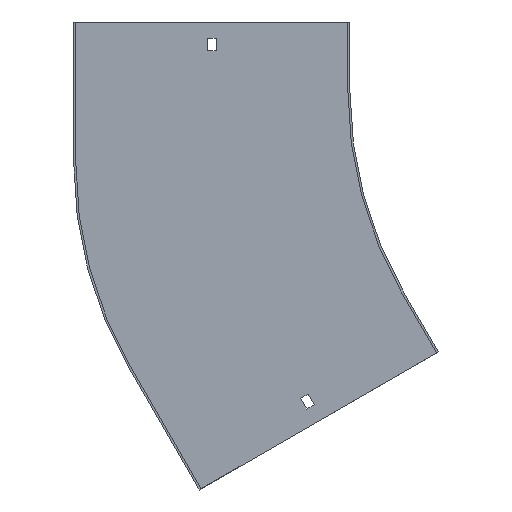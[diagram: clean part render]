
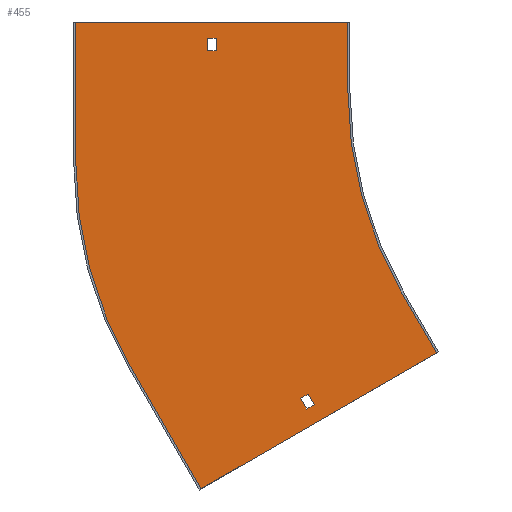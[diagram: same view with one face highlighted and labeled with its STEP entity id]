
A CAD part, front view. The second image highlights one B-rep face of the part: STEP entity #455.
In plain terms, the highlighted planar face has unit normal (0, -1, 0).
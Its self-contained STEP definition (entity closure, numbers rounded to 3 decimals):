
#3 = LINE ( 'NONE', #8, #107 ) ;
#8 = CARTESIAN_POINT ( 'NONE',  ( 14.5, -1.5, -25.115 ) ) ;
#9 = VECTOR ( 'NONE', #380, 1000. ) ;
#10 = CARTESIAN_POINT ( 'NONE',  ( -408.013, -1.5, -293.301 ) ) ;
#11 = CARTESIAN_POINT ( 'NONE',  ( -396.75, -1.5, 0. ) ) ;
#23 = DIRECTION ( 'NONE',  ( 0.866, 0., 0.5 ) ) ;
#27 = DIRECTION ( 'NONE',  ( 1., 0., 0. ) ) ;
#30 = VERTEX_POINT ( 'NONE', #446 ) ;
#43 = EDGE_CURVE ( 'NONE', #287, #266, #371, .T. ) ;
#48 = LINE ( 'NONE', #528, #396 ) ;
#61 = CARTESIAN_POINT ( 'NONE',  ( -403.25, -1.5, 29. ) ) ;
#62 = ORIENTED_EDGE ( 'NONE', *, *, #860, .F. ) ;
#63 = CARTESIAN_POINT ( 'NONE',  ( -396.75, -1.5, 38. ) ) ;
#67 = CARTESIAN_POINT ( 'NONE',  ( -349.225, -1.5, -201.625 ) ) ;
#74 = DIRECTION ( 'NONE',  ( 0., 0., 1. ) ) ;
#98 = VERTEX_POINT ( 'NONE', #730 ) ;
#99 = LINE ( 'NONE', #368, #376 ) ;
#105 = LINE ( 'NONE', #374, #117 ) ;
#107 = VECTOR ( 'NONE', #332, 1000. ) ;
#110 = ORIENTED_EDGE ( 'NONE', *, *, #526, .F. ) ;
#115 = VECTOR ( 'NONE', #189, 1000. ) ;
#117 = VECTOR ( 'NONE', #628, 1000. ) ;
#119 = DIRECTION ( 'NONE',  ( 0.5, 0., -0.866 ) ) ;
#128 = AXIS2_PLACEMENT_3D ( 'NONE', #460, #398, #394 ) ;
#143 = DIRECTION ( 'NONE',  ( 0., 0., -1. ) ) ;
#145 = VERTEX_POINT ( 'NONE', #299 ) ;
#147 = PLANE ( 'NONE',  #579 ) ;
#156 = ORIENTED_EDGE ( 'NONE', *, *, #270, .F. ) ;
#162 = CARTESIAN_POINT ( 'NONE',  ( 0., -1.5, 38. ) ) ;
#175 = CARTESIAN_POINT ( 'NONE',  ( -500., -1.5, -53.59 ) ) ;
#181 = EDGE_CURVE ( 'NONE', #309, #287, #190, .T. ) ;
#189 = DIRECTION ( 'NONE',  ( -0.5, 0., 0.866 ) ) ;
#190 = CIRCLE ( 'NONE', #128, 300. ) ;
#191 = CARTESIAN_POINT ( 'NONE',  ( -300., -1.5, 50. ) ) ;
#203 = EDGE_CURVE ( 'NONE', #209, #413, #48, .T. ) ;
#208 = CARTESIAN_POINT ( 'NONE',  ( -234.808, -1.5, -193.301 ) ) ;
#209 = VERTEX_POINT ( 'NONE', #707 ) ;
#217 = LINE ( 'NONE', #340, #322 ) ;
#218 = ORIENTED_EDGE ( 'NONE', *, *, #461, .F. ) ;
#222 = LINE ( 'NONE', #162, #315 ) ;
#235 = ORIENTED_EDGE ( 'NONE', *, *, #43, .F. ) ;
#241 = FACE_BOUND ( 'NONE', #673, .T. ) ;
#244 = VERTEX_POINT ( 'NONE', #648 ) ;
#256 = LINE ( 'NONE', #67, #454 ) ;
#264 = VERTEX_POINT ( 'NONE', #61 ) ;
#266 = VERTEX_POINT ( 'NONE', #325 ) ;
#270 = EDGE_CURVE ( 'NONE', #244, #561, #636, .T. ) ;
#272 = CARTESIAN_POINT ( 'NONE',  ( -330.225, -1.5, -234.534 ) ) ;
#287 = VERTEX_POINT ( 'NONE', #773 ) ;
#289 = CIRCLE ( 'NONE', #856, 300. ) ;
#299 = CARTESIAN_POINT ( 'NONE',  ( -408.013, -1.5, -293.301 ) ) ;
#309 = VERTEX_POINT ( 'NONE', #714 ) ;
#314 = EDGE_CURVE ( 'NONE', #739, #424, #610, .T. ) ;
#315 = VECTOR ( 'NONE', #27, 1000. ) ;
#322 = VECTOR ( 'NONE', #74, 1000. ) ;
#325 = CARTESIAN_POINT ( 'NONE',  ( -500., -1.5, 50. ) ) ;
#332 = DIRECTION ( 'NONE',  ( -0.866, 0., -0.5 ) ) ;
#333 = DIRECTION ( 'NONE',  ( 0.5, 0., -0.866 ) ) ;
#340 = CARTESIAN_POINT ( 'NONE',  ( -403.25, -1.5, 0. ) ) ;
#345 = LINE ( 'NONE', #10, #681 ) ;
#350 = DIRECTION ( 'NONE',  ( 1., 0., 0. ) ) ;
#354 = VECTOR ( 'NONE', #350, 1000. ) ;
#363 = ORIENTED_EDGE ( 'NONE', *, *, #314, .T. ) ;
#367 = ORIENTED_EDGE ( 'NONE', *, *, #400, .T. ) ;
#368 = CARTESIAN_POINT ( 'NONE',  ( 0., -1.5, 29. ) ) ;
#371 = LINE ( 'NONE', #175, #9 ) ;
#374 = CARTESIAN_POINT ( 'NONE',  ( -233.509, -1.5, -192.551 ) ) ;
#376 = VECTOR ( 'NONE', #693, 1000. ) ;
#380 = DIRECTION ( 'NONE',  ( 0., 0., 1. ) ) ;
#394 = DIRECTION ( 'NONE',  ( 0., 0., -1. ) ) ;
#396 = VECTOR ( 'NONE', #119, 1000. ) ;
#398 = DIRECTION ( 'NONE',  ( 0., 1., 0. ) ) ;
#400 = EDGE_CURVE ( 'NONE', #264, #434, #217, .T. ) ;
#413 = VERTEX_POINT ( 'NONE', #208 ) ;
#415 = LINE ( 'NONE', #732, #354 ) ;
#424 = VERTEX_POINT ( 'NONE', #602 ) ;
#434 = VERTEX_POINT ( 'NONE', #469 ) ;
#435 = EDGE_CURVE ( 'NONE', #98, #209, #289, .T. ) ;
#440 = FACE_BOUND ( 'NONE', #810, .T. ) ;
#442 = ORIENTED_EDGE ( 'NONE', *, *, #695, .F. ) ;
#446 = CARTESIAN_POINT ( 'NONE',  ( -334.725, -1.5, -226.74 ) ) ;
#454 = VECTOR ( 'NONE', #333, 1000. ) ;
#455 = ADVANCED_FACE ( 'NONE', ( #241, #694, #440 ), #147, .T. ) ;
#460 = CARTESIAN_POINT ( 'NONE',  ( -200., -1.5, -53.59 ) ) ;
#461 = EDGE_CURVE ( 'NONE', #266, #502, #415, .T. ) ;
#469 = CARTESIAN_POINT ( 'NONE',  ( -403.25, -1.5, 38. ) ) ;
#476 = DIRECTION ( 'NONE',  ( 0., 0., -1. ) ) ;
#477 = DIRECTION ( 'NONE',  ( 0., -1., 0. ) ) ;
#478 = ORIENTED_EDGE ( 'NONE', *, *, #504, .F. ) ;
#498 = ORIENTED_EDGE ( 'NONE', *, *, #203, .F. ) ;
#502 = VERTEX_POINT ( 'NONE', #861 ) ;
#504 = EDGE_CURVE ( 'NONE', #145, #309, #345, .T. ) ;
#511 = EDGE_CURVE ( 'NONE', #434, #739, #222, .T. ) ;
#526 = EDGE_CURVE ( 'NONE', #561, #30, #3, .T. ) ;
#528 = CARTESIAN_POINT ( 'NONE',  ( -259.808, -1.5, -150. ) ) ;
#537 = DIRECTION ( 'NONE',  ( -0.5, 0., 0.866 ) ) ;
#540 = ORIENTED_EDGE ( 'NONE', *, *, #511, .T. ) ;
#551 = CARTESIAN_POINT ( 'NONE',  ( -329.096, -1.5, -223.49 ) ) ;
#552 = VECTOR ( 'NONE', #23, 1000. ) ;
#561 = VERTEX_POINT ( 'NONE', #551 ) ;
#579 = AXIS2_PLACEMENT_3D ( 'NONE', #601, #814, #476 ) ;
#587 = CARTESIAN_POINT ( 'NONE',  ( -343.596, -1.5, -198.375 ) ) ;
#601 = CARTESIAN_POINT ( 'NONE',  ( 0., -1.5, 0. ) ) ;
#602 = CARTESIAN_POINT ( 'NONE',  ( -396.75, -1.5, 29. ) ) ;
#610 = LINE ( 'NONE', #11, #798 ) ;
#615 = ORIENTED_EDGE ( 'NONE', *, *, #181, .F. ) ;
#628 = DIRECTION ( 'NONE',  ( -0.866, 0., -0.5 ) ) ;
#636 = LINE ( 'NONE', #587, #115 ) ;
#638 = LINE ( 'NONE', #713, #552 ) ;
#648 = CARTESIAN_POINT ( 'NONE',  ( -324.596, -1.5, -231.284 ) ) ;
#656 = DIRECTION ( 'NONE',  ( 0., 0., -1. ) ) ;
#661 = ORIENTED_EDGE ( 'NONE', *, *, #710, .F. ) ;
#673 = EDGE_LOOP ( 'NONE', ( #156, #661, #442, #110 ) ) ;
#681 = VECTOR ( 'NONE', #537, 1000. ) ;
#693 = DIRECTION ( 'NONE',  ( -1., 0., 0. ) ) ;
#694 = FACE_OUTER_BOUND ( 'NONE', #777, .T. ) ;
#695 = EDGE_CURVE ( 'NONE', #30, #821, #256, .T. ) ;
#707 = CARTESIAN_POINT ( 'NONE',  ( -259.808, -1.5, -150. ) ) ;
#710 = EDGE_CURVE ( 'NONE', #821, #244, #638, .T. ) ;
#713 = CARTESIAN_POINT ( 'NONE',  ( 19., -1.5, -32.909 ) ) ;
#714 = CARTESIAN_POINT ( 'NONE',  ( -459.808, -1.5, -203.59 ) ) ;
#722 = ORIENTED_EDGE ( 'NONE', *, *, #831, .T. ) ;
#726 = CARTESIAN_POINT ( 'NONE',  ( 0., -1.5, 0. ) ) ;
#730 = CARTESIAN_POINT ( 'NONE',  ( -300., -1.5, 0. ) ) ;
#732 = CARTESIAN_POINT ( 'NONE',  ( -501.5, -1.5, 50. ) ) ;
#739 = VERTEX_POINT ( 'NONE', #63 ) ;
#762 = ORIENTED_EDGE ( 'NONE', *, *, #835, .F. ) ;
#764 = LINE ( 'NONE', #191, #843 ) ;
#773 = CARTESIAN_POINT ( 'NONE',  ( -500., -1.5, -53.59 ) ) ;
#777 = EDGE_LOOP ( 'NONE', ( #218, #235, #615, #478, #762, #498, #839, #62 ) ) ;
#798 = VECTOR ( 'NONE', #656, 1000. ) ;
#810 = EDGE_LOOP ( 'NONE', ( #540, #363, #722, #367 ) ) ;
#814 = DIRECTION ( 'NONE',  ( 0., -1., 0. ) ) ;
#821 = VERTEX_POINT ( 'NONE', #272 ) ;
#831 = EDGE_CURVE ( 'NONE', #424, #264, #99, .T. ) ;
#834 = DIRECTION ( 'NONE',  ( 0., 0., -1. ) ) ;
#835 = EDGE_CURVE ( 'NONE', #413, #145, #105, .T. ) ;
#839 = ORIENTED_EDGE ( 'NONE', *, *, #435, .F. ) ;
#843 = VECTOR ( 'NONE', #834, 1000. ) ;
#856 = AXIS2_PLACEMENT_3D ( 'NONE', #726, #477, #143 ) ;
#860 = EDGE_CURVE ( 'NONE', #502, #98, #764, .T. ) ;
#861 = CARTESIAN_POINT ( 'NONE',  ( -300., -1.5, 50. ) ) ;
